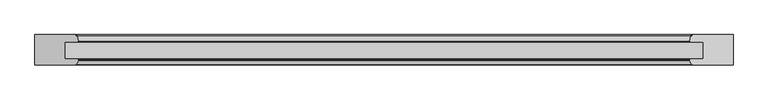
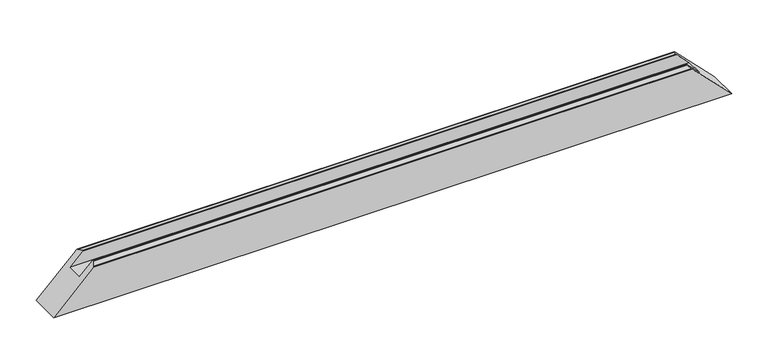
"""IFC4 building model written with IfcOpenShell, lengths in millimetres: proxy geometry, Weiku - Montante - Caixilho fixo : Weiku - Montante - Caixilho fixo."""

import ifcopenshell
import ifcopenshell.guid

model = None  # the IFC model being written
_history = None  # IfcOwnerHistory: only IFC2X3 demands one
_inside = {}  # id of a spatial element -> (the spatial element, [elements in it])
_under = {}  # id of a project, library or spatial element -> (it, [spatial elements below it])
_declared = {}  # id of a project -> (the project, [libraries it declares])
_typed = {}  # id of a type object -> (the type object, [elements of that type])
_made_of = {}  # id of a material, layer set ... -> (it, [elements and type objects made of it])


def new_model(schema):
    """Start an empty IFC model of exactly this schema.

    Asked for "IFC4X3", IfcOpenShell would pick the latest addendum, in which some entities
    have other attributes; the version numbers below select the first issue.
    IFC2X3 requires an IfcOwnerHistory on every rooted entity: one is made here for all.
    """
    global model, _history
    if schema == "IFC4X3":
        model = ifcopenshell.file(schema_version=(4, 3, 0, 0))
    else:
        model = ifcopenshell.file(schema=schema)
    _inside.clear()
    _under.clear()
    _declared.clear()
    _typed.clear()
    _made_of.clear()
    _history = None
    if model.schema == "IFC2X3":
        org = make("IfcOrganization", Name="unknown")
        user = make(
            "IfcPersonAndOrganization",
            ThePerson=make("IfcPerson", FamilyName="unknown"),
            TheOrganization=org,
        )
        app = make(
            "IfcApplication",
            ApplicationDeveloper=org,
            Version="unknown",
            ApplicationFullName="unknown",
            ApplicationIdentifier="unknown",
        )
        _history = make(
            "IfcOwnerHistory",
            OwningUser=user,
            OwningApplication=app,
            ChangeAction="ADDED",
            CreationDate=0,
        )
    return model


def make(cls, **values):
    """One entity of the class cls with the attributes given. An attribute that is None is left unset."""
    return model.create_entity(
        cls, **{name: value for name, value in values.items() if value is not None}
    )


def rooted(cls, **values):
    """An entity with a GlobalId (a new one), such as an element, a storey or a relation."""
    return make(cls, GlobalId=ifcopenshell.guid.new(), OwnerHistory=_history, **values)


def si_unit(unit_type, name, prefix=None):
    """IfcSIUnit, for example si_unit("LENGTHUNIT", "METRE", prefix="MILLI")."""
    return make("IfcSIUnit", UnitType=unit_type, Prefix=prefix, Name=name)


def assignment(units):
    """IfcUnitAssignment: the units of a project."""
    return None if units is None else make("IfcUnitAssignment", Units=units)


def point(xyz):
    """IfcCartesianPoint."""
    return None if xyz is None else make("IfcCartesianPoint", Coordinates=xyz)


def direction(xyz):
    """IfcDirection."""
    return None if xyz is None else make("IfcDirection", DirectionRatios=xyz)


def frame(location, z_axis=None, x_axis=None):
    """IfcAxis2Placement3D, a coordinate frame: its origin and axes. An axis left out is left unset."""
    return make(
        "IfcAxis2Placement3D",
        Location=point(location),
        Axis=direction(z_axis),
        RefDirection=direction(x_axis),
    )


def origin():
    """The frame at (0, 0, 0) with its axes left unset."""
    return frame((0.0, 0.0, 0.0))


def place(relative_to, where):
    """IfcLocalPlacement: puts the frame where relative to a parent placement (None: the world)."""
    return make(
        "IfcLocalPlacement", PlacementRelTo=relative_to, RelativePlacement=where
    )


def context(
    kind, dimensions, precision=None, world=None, true_north=None, identifier=None
):
    """IfcGeometricRepresentationContext, for example the 3D "Model" context."""
    return make(
        "IfcGeometricRepresentationContext",
        ContextIdentifier=identifier,
        ContextType=kind,
        CoordinateSpaceDimension=dimensions,
        Precision=precision,
        WorldCoordinateSystem=world,
        TrueNorth=true_north,
    )


def project(units=None, contexts=None):
    """IfcProject with its units and contexts."""
    return rooted(
        "IfcProject",
        Name="project",
        RepresentationContexts=contexts,
        UnitsInContext=assignment(units),
    )


def spatial(cls, under=None, at=None, **own):
    """A site, building, storey or space (cls), placed at a placement, below another one or the project."""
    s = rooted(cls, ObjectPlacement=at, **own)
    if under is not None:
        _under.setdefault(under.id(), (under, []))[1].append(s)
    return s


def ellipse_curve(where, semi_axis1, semi_axis2):
    """IfcEllipse in the frame where."""
    return make(
        "IfcEllipse", Position=where, SemiAxis1=semi_axis1, SemiAxis2=semi_axis2
    )


def shape(context_of_items, identifier, shape_type, items):
    """IfcShapeRepresentation: the items that make up one representation, for example the "Body"."""
    return make(
        "IfcShapeRepresentation",
        ContextOfItems=context_of_items,
        RepresentationIdentifier=identifier,
        RepresentationType=shape_type,
        Items=items,
    )


def source(mapping_origin, context_of_items, identifier, shape_type, items):
    """IfcRepresentationMap: a shape defined once, which mapped items show again and again."""
    return make(
        "IfcRepresentationMap",
        MappingOrigin=mapping_origin,
        MappedRepresentation=shape(context_of_items, identifier, shape_type, items),
    )


def transform(
    local_origin,
    x_axis=None,
    y_axis=None,
    z_axis=None,
    scale=None,
    scale2=None,
    scale3=None,
    uniform=True,
):
    """IfcCartesianTransformationOperator3D, or its non-uniform kind. x_axis, y_axis, z_axis: its Axis1, 2, 3."""
    if uniform:
        return make(
            "IfcCartesianTransformationOperator3D",
            Axis1=direction(x_axis),
            Axis2=direction(y_axis),
            LocalOrigin=point(local_origin),
            Scale=scale,
            Axis3=direction(z_axis),
        )
    return make(
        "IfcCartesianTransformationOperator3DnonUniform",
        Axis1=direction(x_axis),
        Axis2=direction(y_axis),
        LocalOrigin=point(local_origin),
        Scale=scale,
        Axis3=direction(z_axis),
        Scale2=scale2,
        Scale3=scale3,
    )


def mapped(mapping_source, mapping_target):
    """IfcMappedItem: shows the shape of a source again, moved by a transform."""
    return make(
        "IfcMappedItem", MappingSource=mapping_source, MappingTarget=mapping_target
    )


def made_of(thing, what):
    """Note that an element or type object is made of a material, layer set ...; save() writes the relation."""
    if what is not None:
        _made_of.setdefault(what.id(), (what, []))[1].append(thing)
    return thing


def element(
    cls,
    number,
    at=None,
    inside=None,
    cuts=None,
    type_object=None,
    material=None,
    context=None,
    identifier="Body",
    shape_type=None,
    held_by="IfcProductDefinitionShape",
    body=None,
    shapes=None,
    **own,
):
    """One element of the class cls, such as IfcWall. Its Tag is "e" and its number.

    at: its placement. inside: the storey or other place that contains it. cuts: it is an
    opening in that element (IfcRelVoidsElement). A single representation is given by context,
    identifier, shape_type and body (its items); several are given by shapes. held_by: the class
    of the entity that holds the representations. save() writes the other relations.
    """
    e = rooted(cls, Tag="e%d" % number, ObjectPlacement=at, **own)
    if body is not None:
        shapes = [shape(context, identifier, shape_type, body)]
    if shapes is not None:
        e.Representation = make(held_by, Representations=shapes)
    if inside is not None:
        _inside.setdefault(inside.id(), (inside, []))[1].append(e)
    if cuts is not None:
        rooted(
            "IfcRelVoidsElement", RelatingBuildingElement=cuts, RelatedOpeningElement=e
        )
    if type_object is not None:
        _typed.setdefault(type_object.id(), (type_object, []))[1].append(e)
    return made_of(e, material)


def aggregate(whole, parts):
    """IfcRelAggregates: a whole, such as a stair, and the parts it consists of."""
    return rooted("IfcRelAggregates", RelatingObject=whole, RelatedObjects=parts)


def save(model, path):
    """Write the relations noted so far, then the file.

    IfcRelAggregates (storeys below a building ...), IfcRelContainedInSpatialStructure (elements
    in a storey), IfcRelDefinesByType, IfcRelAssociatesMaterial and IfcRelDeclares: one each for
    every whole, place, type object, material and project.
    """
    for whole, parts in _under.values():
        aggregate(whole, parts)
    for where, things in _inside.values():
        rooted(
            "IfcRelContainedInSpatialStructure",
            RelatedElements=things,
            RelatingStructure=where,
        )
    for kind, things in _typed.values():
        rooted("IfcRelDefinesByType", RelatedObjects=things, RelatingType=kind)
    for what, things in _made_of.values():
        rooted("IfcRelAssociatesMaterial", RelatedObjects=things, RelatingMaterial=what)
    for by, libraries in _declared.values():
        rooted("IfcRelDeclares", RelatingContext=by, RelatedDefinitions=libraries)
    model.write(path)


def plane_surface(at):
    """IfcPlane: the flat surface through the origin of the frame at, square to its z axis."""
    return make("IfcPlane", Position=at)


def cylinder_surface(at, radius):
    """IfcCylindricalSurface: all points at the distance radius from the z axis of the frame at."""
    return make("IfcCylindricalSurface", Position=at, Radius=radius)


def advanced_brep(points, edges, surfaces, faces):
    """IfcAdvancedBrep: a solid bounded by faces that lie on surfaces and meet in shared edges.

    An edge is (start, end): straight between two places in points (the first is 0);
    or (start, end, curve); or (start, end, curve, False) where it runs against its curve.
    A face is (place in surfaces, loops), or (place, loops, False) where it looks against
    its surface's normal. A loop lists edges by number (the first is 1), with a minus sign
    where the edge is run from its end to its start. The first loop is the outer one.
    """
    corners = [point(p) for p in points]
    vertices = [make("IfcVertexPoint", VertexGeometry=c) for c in corners]
    made = []
    for start, end, *more in edges:
        made.append(
            make(
                "IfcEdgeCurve",
                EdgeStart=vertices[start],
                EdgeEnd=vertices[end],
                EdgeGeometry=more[0] if more else make("IfcPolyline", Points=[corners[start], corners[end]]),
                SameSense=more[1] if len(more) > 1 else True,
            )
        )
    hull = []
    for where, loops, *sense in faces:
        bounds = []
        for j, loop in enumerate(loops):
            ring = [make("IfcOrientedEdge", EdgeElement=made[abs(k) - 1], Orientation=k > 0) for k in loop]
            bounds.append(
                make(
                    "IfcFaceOuterBound" if j == 0 else "IfcFaceBound",
                    Bound=make("IfcEdgeLoop", EdgeList=ring),
                    Orientation=True,
                )
            )
        hull.append(make("IfcAdvancedFace", Bounds=bounds, FaceSurface=surfaces[where], SameSense=sense[0] if sense else True))
    return make("IfcAdvancedBrep", Outer=make("IfcClosedShell", CfsFaces=hull))


def generic_models_c192720c(model_context):
    return source(origin(), model_context, "Body", "AdvancedBrep", [
        advanced_brep(
        [(-469.718227, 37.0070552, 66.881773), (-471.8000319, 44.7764571, 64.7999681), (-474.6978094, 47.0, 61.9021906), (-536.6, 47.0, 0.0), (-536.6, 0.0, 0.0), (-474.1773503, 0.0, 62.4226497), (-473.3113249, 0.5, 63.2886751), (-469.8679492, 6.4641016, 66.7320508), (-469.6, 7.4641016, 67.0), (-469.6, 8.8, 67.0), (-470.3, 9.5, 66.3), (-490.6, 9.5, 46.0), (-490.6, 36.0, 46.0), (-470.4909676, 36.0, 66.1090324), (471.8000319, 44.7764571, 64.7999681), (469.718227, 37.0070552, 66.881773), (470.4909676, 36.0, 66.1090324), (490.6, 36.0, 46.0), (490.6, 9.5, 46.0), (470.3, 9.5, 66.3), (469.6, 8.8, 67.0), (469.6, 7.4641016, 67.0), (469.8679492, 6.4641016, 66.7320508), (473.3113249, 0.5, 63.2886751), (474.1773503, 0.0, 62.4226497), (536.6, 0.0, 0.0), (536.6, 47.0, 0.0), (474.6978094, 47.0, 61.9021906)],
        [
            (0, 1),
            (1, 2, ellipse_curve(frame((-474.6978094, 44.0, 61.9021906), z_axis=(-0.707106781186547, 0.0, 0.7071067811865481), x_axis=(-0.7071067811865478, 0.0, -0.707106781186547)), 4.2426407, 3.0)),
            (2, 3),
            (3, 4),
            (4, 5),
            (5, 6, ellipse_curve(frame((-474.1773503, 1.0, 62.4226497), z_axis=(-0.707106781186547, 0.0, 0.7071067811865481), x_axis=(-0.7071067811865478, 0.0, -0.707106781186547)), 1.4142136, 1.0)),
            (6, 7),
            (7, 8, ellipse_curve(frame((-471.6, 7.4641016, 65.0), z_axis=(-0.707106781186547, 0.0, 0.7071067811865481), x_axis=(-0.7071067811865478, 0.0, -0.707106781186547)), 2.8284271, 2.0)),
            (8, 9),
            (9, 10, ellipse_curve(frame((-470.3, 8.8, 66.3), z_axis=(-0.707106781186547, 0.0, 0.7071067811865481), x_axis=(-0.7071067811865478, 0.0, -0.707106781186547)), 0.9899495, 0.7)),
            (10, 11),
            (11, 12),
            (12, 13),
            (13, 0, ellipse_curve(frame((-470.4909676, 36.8, 66.1090324), z_axis=(-0.707106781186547, 0.0, 0.7071067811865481), x_axis=(-0.7071067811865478, 0.0, -0.707106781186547)), 1.1313708, 0.8)),
            (14, 15),
            (15, 16, ellipse_curve(frame((470.4909676, 36.8, 66.1090324), z_axis=(0.707106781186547, 0.0, 0.707106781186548), x_axis=(-0.7071067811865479, 0.0, 0.707106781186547)), 1.1313708, 0.8)),
            (16, 17),
            (17, 18),
            (18, 19),
            (19, 20, ellipse_curve(frame((470.3, 8.8, 66.3), z_axis=(0.707106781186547, 0.0, 0.707106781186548), x_axis=(-0.7071067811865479, 0.0, 0.707106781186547)), 0.9899495, 0.7)),
            (20, 21),
            (21, 22, ellipse_curve(frame((471.6, 7.4641016, 65.0), z_axis=(0.707106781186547, 0.0, 0.707106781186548), x_axis=(-0.7071067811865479, 0.0, 0.707106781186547)), 2.8284271, 2.0)),
            (22, 23),
            (23, 24, ellipse_curve(frame((474.1773503, 1.0, 62.4226497), z_axis=(0.707106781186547, 0.0, 0.707106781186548), x_axis=(-0.7071067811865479, 0.0, 0.707106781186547)), 1.4142136, 1.0)),
            (24, 25),
            (25, 26),
            (26, 27),
            (27, 14, ellipse_curve(frame((474.6978094, 44.0, 61.9021906), z_axis=(0.707106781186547, 0.0, 0.707106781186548), x_axis=(-0.7071067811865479, 0.0, 0.707106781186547)), 4.2426407, 3.0)),
            (0, 15),
            (14, 1),
            (27, 2),
            (26, 3),
            (25, 4),
            (24, 5),
            (11, 18),
            (17, 12),
            (16, 13),
            (23, 6),
            (22, 7),
            (21, 8),
            (20, 9),
            (19, 10),
        ],
        [
            plane_surface(frame((-606.6, -15.0, -70.0), z_axis=(-0.707106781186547, 0.0, 0.7071067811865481), x_axis=(0.0, 1.0, 0.0))),
            plane_surface(frame((466.6, -15.0, 70.0), z_axis=(0.707106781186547, 0.0, 0.707106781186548), x_axis=(0.0, 1.0, 0.0))),
            plane_surface(frame((-536.6, 37.0070552, 66.881773), z_axis=(0.0, 0.2588190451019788, 0.9659258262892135), x_axis=(1.0, 0.0, 0.0))),
            cylinder_surface(frame((-536.6, 44.0, 61.9021906), z_axis=(-1.0, 0.0, 0.0), x_axis=(0.0, 1.0, 0.0)), 3.0),
            plane_surface(frame((-536.6, 47.0, 61.9021906), z_axis=(0.0, 1.0, 0.0), x_axis=(1.0, 0.0, 0.0))),
            plane_surface(frame((-536.6, 47.0, 0.0), z_axis=(0.0, 0.0, -1.0), x_axis=(1.0, 0.0, 0.0))),
            plane_surface(frame((-536.6, 0.0, 0.0), z_axis=(0.0, -1.0, 0.0), x_axis=(1.0, 0.0, 0.0))),
            plane_surface(frame((-536.6, 9.5, 46.0), z_axis=(0.0, 0.0, 1.0), x_axis=(1.0, 0.0, 0.0))),
            plane_surface(frame((-536.6, 36.0, 46.0), z_axis=(0.0, -1.0, 0.0), x_axis=(1.0, 0.0, 0.0))),
            cylinder_surface(frame((-536.6, 36.8, 66.1090324), z_axis=(-1.0, 0.0, 0.0), x_axis=(0.0, 1.0, 0.0)), 0.8),
            cylinder_surface(frame((-536.6, 1.0, 62.4226497), z_axis=(-1.0, 0.0, 0.0), x_axis=(0.0, 1.0, 0.0)), 1.0),
            plane_surface(frame((-536.6, 0.5, 63.2886751), z_axis=(0.0, -0.49999999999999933, 0.866025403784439), x_axis=(1.0, 0.0, 0.0))),
            cylinder_surface(frame((-536.6, 7.4641016, 65.0), z_axis=(-1.0, 0.0, 0.0), x_axis=(0.0, 1.0, 0.0)), 2.0),
            plane_surface(frame((-536.6, 7.4641016, 67.0), z_axis=(0.0, 0.0, 1.0), x_axis=(1.0, 0.0, 0.0))),
            cylinder_surface(frame((-536.6, 8.8, 66.3), z_axis=(-1.0, 0.0, 0.0), x_axis=(0.0, 1.0, 0.0)), 0.7),
            plane_surface(frame((-536.6, 9.5, 66.3), z_axis=(0.0, 1.0, 0.0), x_axis=(1.0, 0.0, 0.0))),
        ],
        [
            (0, [[1, 2, 3, 4, 5, 6, 7, 8, 9, 10, 11, 12, 13, 14]]),
            (1, [[15, 16, 17, 18, 19, 20, 21, 22, 23, 24, 25, 26, 27, 28]]),
            (2, [[-1, 29, -15, 30]]),
            (3, [[-2, -30, -28, 31]]),
            (4, [[32, -3, -31, -27]]),
            (5, [[-32, -26, 33, -4]]),
            (6, [[-33, -25, 34, -5]]),
            (7, [[-12, 35, -18, 36]]),
            (8, [[-13, -36, -17, 37]]),
            (9, [[-14, -37, -16, -29]]),
            (10, [[-6, -34, -24, 38]]),
            (11, [[-7, -38, -23, 39]]),
            (12, [[-8, -39, -22, 40]]),
            (13, [[-9, -40, -21, 41]]),
            (14, [[-10, -41, -20, 42]]),
            (15, [[-11, -42, -19, -35]]),
        ],
    ),
    ])


if __name__ == "__main__":
    model = new_model("IFC4")
    model_context = context("Model", 3, world=origin())
    ifc_project = project(units=[si_unit("LENGTHUNIT", "METRE", prefix="MILLI")], contexts=[model_context])
    site = spatial("IfcSite", under=ifc_project)
    building = spatial("IfcBuilding", under=site)
    placement = place(None, origin())
    generic_models_shape = generic_models_c192720c(model_context)
    element("IfcBuildingElementProxy", 1, Name="Weiku - Montante - Caixilho fixo : Weiku - Montante - Caixilho fixo", ObjectType="Weiku - Montante - Caixilho fixo : Weiku - Montante - Caixilho fixo", at=placement, inside=building, context=model_context, shape_type="MappedRepresentation", body=[
        mapped(generic_models_shape, transform((0.0, 0.0, 0.0), x_axis=(1.0, 0.0, 0.0), y_axis=(0.0, 1.0, 0.0), z_axis=(0.0, 0.0, 1.0))),
    ])
    save(model, "model.ifc")
